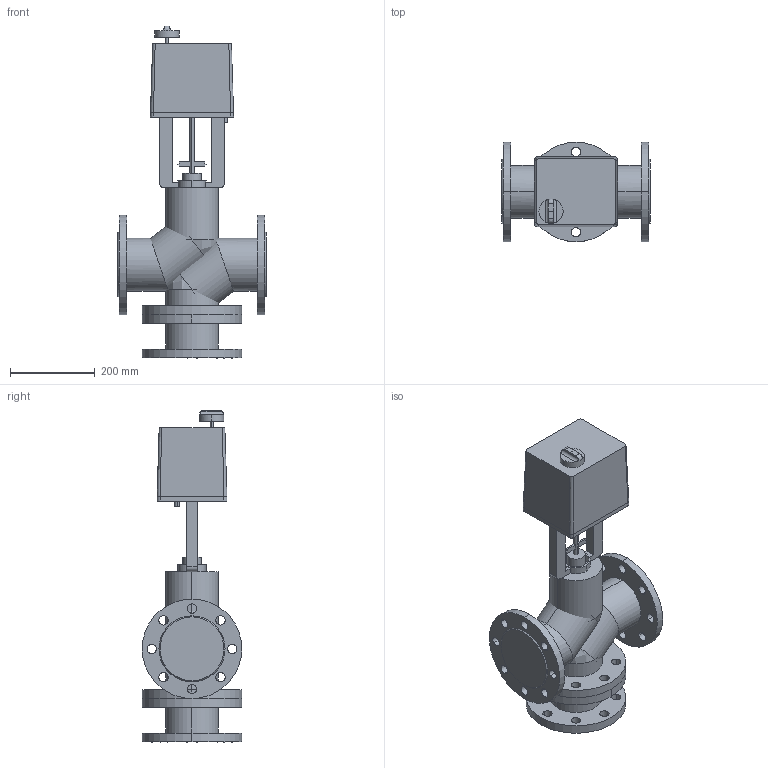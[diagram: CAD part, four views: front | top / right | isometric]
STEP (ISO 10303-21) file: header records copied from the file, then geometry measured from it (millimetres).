
FILE_DESCRIPTION(/* description */ (''),/* implementation_level */ '2;1');
FILE_NAME(/* name */ 'ТРК DN100 PN 2.5 МПа LEA 4000',/* time_stamp */ '2026-07-14T23:04:28+03:00',/* author */ (''),/* organization */ (''),/* preprocessor_version */ 'ST-DEVELOPER v20',/* originating_system */ '',/* authorisation */ '');
FILE_SCHEMA (('AP242_MANAGED_MODEL_BASED_3D_ENGINEERING_MIM_LF { 1 0 10303 442 1 1 4 }'));
Length unit declared in the file: millimetre
Products named in the file (16): TopLevelAssembly; Выдавливание; Модификатор; Модификатор_1; Выдавливание_
1; Выдавливание_
2; Вращение; Выдавливание_
3; Выдавливание_
4; Выдавливание_
5; Выдавливание_
6; Выдавливание_
7; 1600; Переход; Объемная геометрия 
присоединена; Объемная геометрия 
присоединена_1
Assembly tree (15 placements, depth 2):
  TopLevelAssembly
    Выдавливание
    Модификатор
    Модификатор_1
    Выдавливание_
1
    Выдавливание_
2
    Вращение
    Выдавливание_
3
    Выдавливание_
4
    Выдавливание_
5
    Выдавливание_
6
    Выдавливание_
7
    1600
    Переход
    Объемная геометрия 
присоединена
    Объемная геометрия 
присоединена_1
Bounding box: 350 x 235 x 784 mm (x, y, z)
Volume: 18040740.8 mm3; surface area: 1301639.6 mm2
Topology: 20 solids, 20 shells, 231 faces, 567 edges, 372 vertices
Faces by surface type: cylinder 136, plane 81, bspline 10, cone 4
Entity records: 7859 total; most frequent: CARTESIAN_POINT 1489, DIRECTION 1356, ORIENTED_EDGE 1118, EDGE_CURVE 559, AXIS2_PLACEMENT_3D 557, VERTEX_POINT 372, EDGE_LOOP 325, CIRCLE 297
